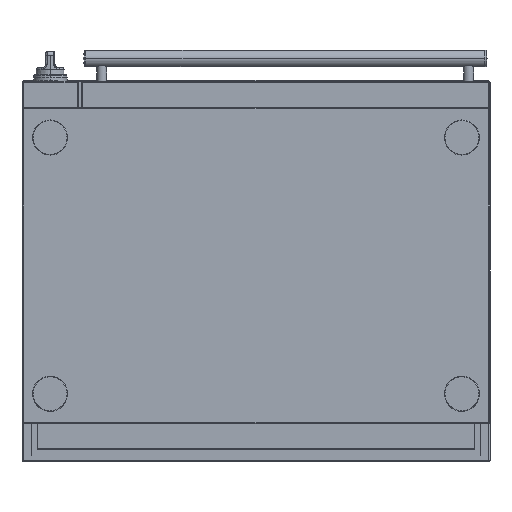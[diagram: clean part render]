
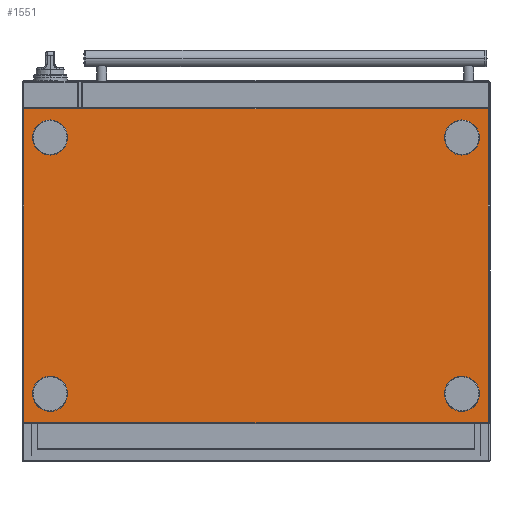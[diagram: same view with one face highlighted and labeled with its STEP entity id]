
A CAD part, front view. The second image highlights one B-rep face of the part: STEP entity #1551.
In plain terms, the highlighted planar face has unit normal (0, -1, 0).
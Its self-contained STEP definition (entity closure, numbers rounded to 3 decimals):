
#314=CARTESIAN_POINT('',(352.,-352.5,-219.));
#315=DIRECTION('',(0.,-1.,0.));
#316=DIRECTION('',(1.,0.,0.));
#317=AXIS2_PLACEMENT_3D('',#314,#315,#316);
#319=CARTESIAN_POINT('',(352.,-352.5,-219.));
#320=DIRECTION('',(0.,-1.,0.));
#321=DIRECTION('',(-1.,0.,0.));
#322=AXIS2_PLACEMENT_3D('',#319,#320,#321);
#324=CARTESIAN_POINT('',(352.,-352.5,219.));
#325=DIRECTION('',(0.,-1.,0.));
#326=DIRECTION('',(1.,0.,0.));
#327=AXIS2_PLACEMENT_3D('',#324,#325,#326);
#329=CARTESIAN_POINT('',(352.,-352.5,219.));
#330=DIRECTION('',(0.,-1.,0.));
#331=DIRECTION('',(-1.,0.,0.));
#332=AXIS2_PLACEMENT_3D('',#329,#330,#331);
#334=CARTESIAN_POINT('',(-352.,-352.5,-219.));
#335=DIRECTION('',(0.,1.,0.));
#336=DIRECTION('',(-1.,0.,0.));
#337=AXIS2_PLACEMENT_3D('',#334,#335,#336);
#339=CARTESIAN_POINT('',(-352.,-352.5,-219.));
#340=DIRECTION('',(0.,1.,0.));
#341=DIRECTION('',(1.,0.,0.));
#342=AXIS2_PLACEMENT_3D('',#339,#340,#341);
#344=CARTESIAN_POINT('',(-352.,-352.5,219.));
#345=DIRECTION('',(0.,1.,0.));
#346=DIRECTION('',(-1.,0.,0.));
#347=AXIS2_PLACEMENT_3D('',#344,#345,#346);
#349=CARTESIAN_POINT('',(-352.,-352.5,219.));
#350=DIRECTION('',(0.,1.,0.));
#351=DIRECTION('',(1.,0.,0.));
#352=AXIS2_PLACEMENT_3D('',#349,#350,#351);
#354=DIRECTION('',(0.,0.,-1.));
#355=VECTOR('',#354,536.4);
#356=CARTESIAN_POINT('',(397.2,-352.5,268.2));
#357=LINE('',#356,#355);
#358=DIRECTION('',(-1.,0.,0.));
#359=VECTOR('',#358,794.4);
#360=CARTESIAN_POINT('',(397.2,-352.5,-268.2));
#361=LINE('',#360,#359);
#362=DIRECTION('',(0.,0.,1.));
#363=VECTOR('',#362,536.4);
#364=CARTESIAN_POINT('',(-397.2,-352.5,-268.2));
#365=LINE('',#364,#363);
#366=DIRECTION('',(-1.,0.,0.));
#367=VECTOR('',#366,794.4);
#368=CARTESIAN_POINT('',(397.2,-352.5,268.2));
#369=LINE('',#368,#367);
#1112=CARTESIAN_POINT('',(382.,-352.5,-219.));
#1113=VERTEX_POINT('',#1112);
#1114=CARTESIAN_POINT('',(322.,-352.5,-219.));
#1115=VERTEX_POINT('',#1114);
#1120=CARTESIAN_POINT('',(382.,-352.5,219.));
#1121=VERTEX_POINT('',#1120);
#1122=CARTESIAN_POINT('',(322.,-352.5,219.));
#1123=VERTEX_POINT('',#1122);
#1128=CARTESIAN_POINT('',(-382.,-352.5,-219.));
#1129=VERTEX_POINT('',#1128);
#1130=CARTESIAN_POINT('',(-322.,-352.5,-219.));
#1131=VERTEX_POINT('',#1130);
#1136=CARTESIAN_POINT('',(-382.,-352.5,219.));
#1137=VERTEX_POINT('',#1136);
#1138=CARTESIAN_POINT('',(-322.,-352.5,219.));
#1139=VERTEX_POINT('',#1138);
#1204=CARTESIAN_POINT('',(397.2,-352.5,268.2));
#1205=CARTESIAN_POINT('',(397.2,-352.5,-268.2));
#1206=VERTEX_POINT('',#1204);
#1207=VERTEX_POINT('',#1205);
#1230=CARTESIAN_POINT('',(-397.2,-352.5,-268.2));
#1231=VERTEX_POINT('',#1230);
#1250=CARTESIAN_POINT('',(-397.2,-352.5,268.2));
#1251=VERTEX_POINT('',#1250);
#1513=CARTESIAN_POINT('',(-399.,-352.5,270.));
#1514=DIRECTION('',(0.,-1.,0.));
#1515=DIRECTION('',(0.,0.,-1.));
#1516=AXIS2_PLACEMENT_3D('',#1513,#1514,#1515);
#1517=PLANE('',#1516);
#1518=ORIENTED_EDGE('',*,*,#1503,.T.);
#1520=ORIENTED_EDGE('',*,*,#1519,.T.);
#1522=ORIENTED_EDGE('',*,*,#1521,.T.);
#1524=ORIENTED_EDGE('',*,*,#1523,.F.);
#1525=EDGE_LOOP('',(#1518,#1520,#1522,#1524));
#1526=FACE_OUTER_BOUND('',#1525,.F.);
#1528=ORIENTED_EDGE('',*,*,#1527,.T.);
#1530=ORIENTED_EDGE('',*,*,#1529,.T.);
#1531=EDGE_LOOP('',(#1528,#1530));
#1532=FACE_BOUND('',#1531,.F.);
#1534=ORIENTED_EDGE('',*,*,#1533,.F.);
#1536=ORIENTED_EDGE('',*,*,#1535,.F.);
#1537=EDGE_LOOP('',(#1534,#1536));
#1538=FACE_BOUND('',#1537,.F.);
#1540=ORIENTED_EDGE('',*,*,#1539,.F.);
#1542=ORIENTED_EDGE('',*,*,#1541,.F.);
#1543=EDGE_LOOP('',(#1540,#1542));
#1544=FACE_BOUND('',#1543,.F.);
#1546=ORIENTED_EDGE('',*,*,#1545,.T.);
#1548=ORIENTED_EDGE('',*,*,#1547,.T.);
#1549=EDGE_LOOP('',(#1546,#1548));
#1550=FACE_BOUND('',#1549,.F.);
#318=CIRCLE('',#317,30.);
#323=CIRCLE('',#322,30.);
#328=CIRCLE('',#327,30.);
#333=CIRCLE('',#332,30.);
#338=CIRCLE('',#337,30.);
#343=CIRCLE('',#342,30.);
#348=CIRCLE('',#347,30.);
#353=CIRCLE('',#352,30.);
#1503=EDGE_CURVE('',#1206,#1207,#357,.T.);
#1519=EDGE_CURVE('',#1207,#1231,#361,.T.);
#1521=EDGE_CURVE('',#1231,#1251,#365,.T.);
#1523=EDGE_CURVE('',#1206,#1251,#369,.T.);
#1527=EDGE_CURVE('',#1121,#1123,#328,.T.);
#1529=EDGE_CURVE('',#1123,#1121,#333,.T.);
#1533=EDGE_CURVE('',#1129,#1131,#338,.T.);
#1535=EDGE_CURVE('',#1131,#1129,#343,.T.);
#1539=EDGE_CURVE('',#1137,#1139,#348,.T.);
#1541=EDGE_CURVE('',#1139,#1137,#353,.T.);
#1545=EDGE_CURVE('',#1113,#1115,#318,.T.);
#1547=EDGE_CURVE('',#1115,#1113,#323,.T.);
#1551=ADVANCED_FACE('',(#1526,#1532,#1538,#1544,#1550),#1517,.T.);
